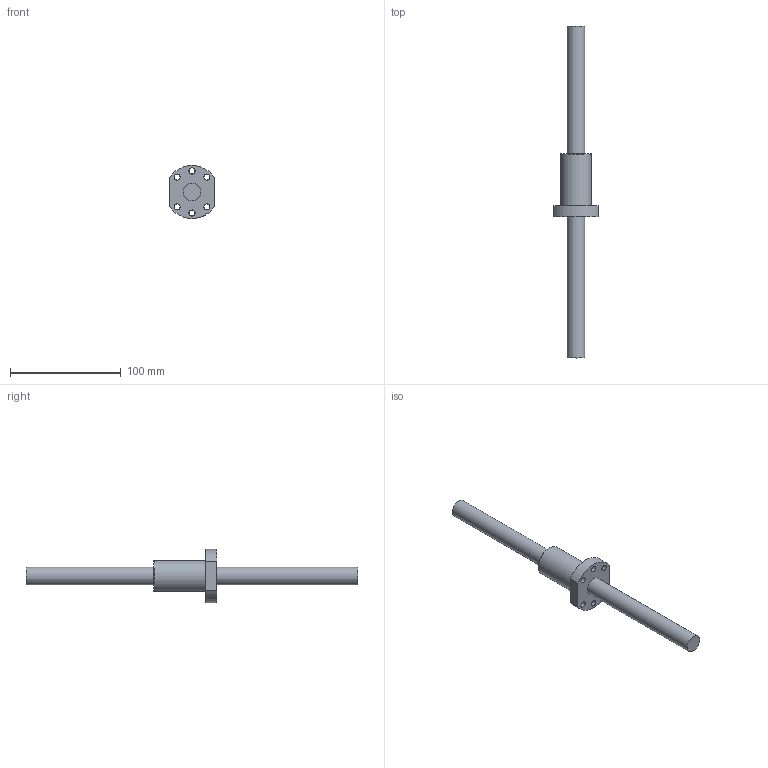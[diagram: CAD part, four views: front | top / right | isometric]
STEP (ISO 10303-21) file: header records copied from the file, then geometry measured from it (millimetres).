
FILE_DESCRIPTION (( 'STEP AP203' ), '1' );
FILE_NAME ('SFNU1610.STEP', '2023-06-07T00:46:23', ( '' ), ( '' ), 'SwSTEP 2.0', 'SolidWorks 2022', '' );
FILE_SCHEMA (( 'CONFIG_CONTROL_DESIGN' ));
Length unit declared in the file: millimetre
Products named in the file (1): SFNU1610
Bounding box: 40 x 300 x 48 mm (x, y, z)
Volume: 92712.7 mm3; surface area: 27838.7 mm2
Topology: 2 solids, 2 shells, 22 faces, 54 edges, 38 vertices
Faces by surface type: cylinder 13, plane 8, torus 1
Full cylindrical faces by diameter (mm): 4 x1, 5.5 x6, 6 x1, 16 x2, 28 x1
Entity records: 769 total; most frequent: CARTESIAN_POINT 207, DIRECTION 104, ORIENTED_EDGE 70, EDGE_LOOP 52, AXIS2_PLACEMENT_3D 48, EDGE_CURVE 35, FACE_OUTER_BOUND 34, VERTEX_POINT 31
